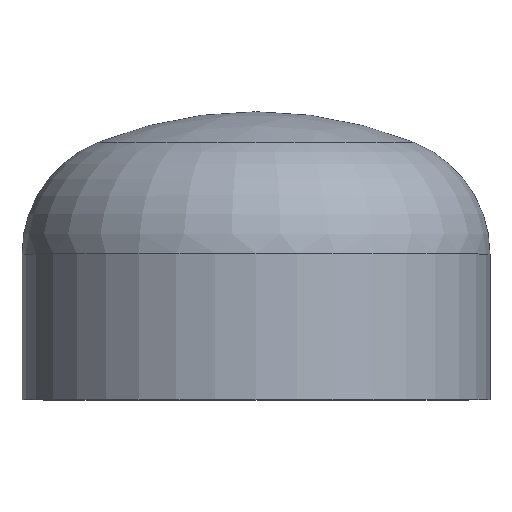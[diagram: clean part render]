
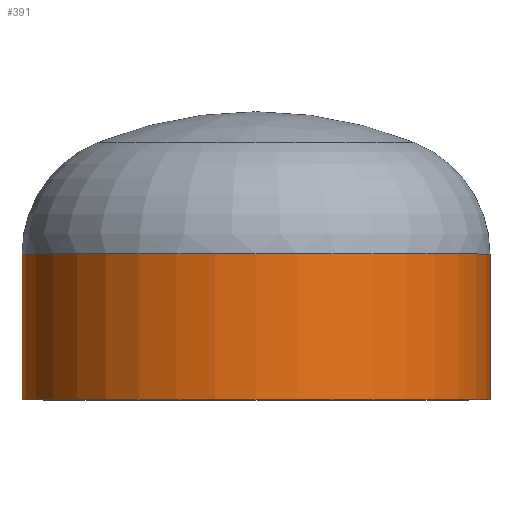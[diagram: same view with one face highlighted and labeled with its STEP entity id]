
A CAD part, top view. The second image highlights one B-rep face of the part: STEP entity #391.
In plain terms, the highlighted cylindrical face has radius 136.5 mm (diameter 273 mm), a partial arc.
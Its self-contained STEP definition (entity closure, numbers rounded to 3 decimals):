
#8 = ORIENTED_EDGE ( 'NONE', *, *, #107, .T. ) ;
#9 = AXIS2_PLACEMENT_3D ( 'NONE', #224, #381, #253 ) ;
#28 = VERTEX_POINT ( 'NONE', #238 ) ;
#38 = ORIENTED_EDGE ( 'NONE', *, *, #390, .T. ) ;
#45 = VERTEX_POINT ( 'NONE', #233 ) ;
#50 = ORIENTED_EDGE ( 'NONE', *, *, #382, .F. ) ;
#69 = VERTEX_POINT ( 'NONE', #146 ) ;
#79 = CARTESIAN_POINT ( 'NONE',  ( 0., 0., 0. ) ) ;
#92 = VERTEX_POINT ( 'NONE', #216 ) ;
#97 = AXIS2_PLACEMENT_3D ( 'NONE', #263, #261, #203 ) ;
#100 = EDGE_CURVE ( 'NONE', #92, #28, #138, .T. ) ;
#107 = EDGE_CURVE ( 'NONE', #45, #28, #292, .T. ) ;
#113 = ORIENTED_EDGE ( 'NONE', *, *, #100, .F. ) ;
#138 = CIRCLE ( 'NONE', #97, 136.5 ) ;
#140 = EDGE_LOOP ( 'NONE', ( #38, #8, #113, #50 ) ) ;
#146 = CARTESIAN_POINT ( 'NONE',  ( 136.5, 85., 0. ) ) ;
#151 = DIRECTION ( 'NONE',  ( 1., 0., 0. ) ) ;
#172 = CARTESIAN_POINT ( 'NONE',  ( 136.5, 0., 0. ) ) ;
#195 = DIRECTION ( 'NONE',  ( 0., -1., 0. ) ) ;
#199 = AXIS2_PLACEMENT_3D ( 'NONE', #79, #195, #151 ) ;
#201 = DIRECTION ( 'NONE',  ( 0., -1., 0. ) ) ;
#202 = CARTESIAN_POINT ( 'NONE',  ( -136.5, 0., 0. ) ) ;
#203 = DIRECTION ( 'NONE',  ( 1., 0., 0. ) ) ;
#210 = CYLINDRICAL_SURFACE ( 'NONE', #199, 136.5 ) ;
#216 = CARTESIAN_POINT ( 'NONE',  ( 136.5, 0., 0. ) ) ;
#219 = CIRCLE ( 'NONE', #9, 136.5 ) ;
#224 = CARTESIAN_POINT ( 'NONE',  ( 0., 85., 0. ) ) ;
#230 = FACE_OUTER_BOUND ( 'NONE', #140, .T. ) ;
#233 = CARTESIAN_POINT ( 'NONE',  ( -136.5, 85., 0. ) ) ;
#238 = CARTESIAN_POINT ( 'NONE',  ( -136.5, 0., 0. ) ) ;
#253 = DIRECTION ( 'NONE',  ( 1., 0., 0. ) ) ;
#261 = DIRECTION ( 'NONE',  ( 0., -1., 0. ) ) ;
#263 = CARTESIAN_POINT ( 'NONE',  ( 0., 0., 0. ) ) ;
#278 = VECTOR ( 'NONE', #315, 1000. ) ;
#292 = LINE ( 'NONE', #202, #396 ) ;
#315 = DIRECTION ( 'NONE',  ( 0., -1., 0. ) ) ;
#345 = LINE ( 'NONE', #172, #278 ) ;
#381 = DIRECTION ( 'NONE',  ( 0., -1., 0. ) ) ;
#382 = EDGE_CURVE ( 'NONE', #69, #92, #345, .T. ) ;
#390 = EDGE_CURVE ( 'NONE', #69, #45, #219, .T. ) ;
#391 = ADVANCED_FACE ( 'NONE', ( #230 ), #210, .T. ) ;
#396 = VECTOR ( 'NONE', #201, 1000. ) ;
